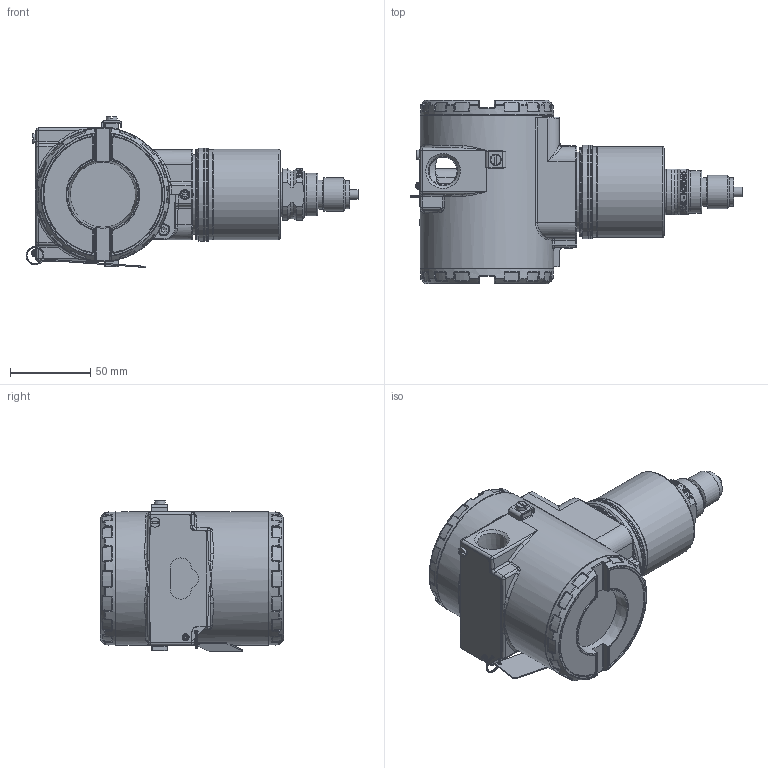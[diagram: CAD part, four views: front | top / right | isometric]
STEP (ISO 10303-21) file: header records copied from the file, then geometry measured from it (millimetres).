
FILE_DESCRIPTION(/* description */ (''),/* implementation_level */ '2;1');
FILE_NAME(/* name */ 'F:\Area\Desenvolvimento_2\Projects\Sensor\projetos\LD29X\3d\dimensionais 3D - clientes\LD29XM5 G1-2 B.stp',/* time_stamp */ '2023-01-31T10:11:25-03:00',/* author */ ('inventor02'),/* organization */ (''),/* preprocessor_version */ 'ST-DEVELOPER v17',/* originating_system */ 'Autodesk Inventor 2019',/* authorisation */ '');
FILE_SCHEMA (('CONFIG_CONTROL_DESIGN'));
Products named in the file (27): LD29XM5 G1-2 B; SENSOR 29X FX5 G1-2 B; 101-B-5897-01 capa fx5; 101-C-3677-06 conexao ao processo 1-2NPT; 101-D-1309-04 pescoço LD29x usinado; 101-B-1610-06 conexão G1-2 B EN837-1; carcaça vazia com tampas e plaqueta; carcaça LD inox sem letras; Subconjunto plaqueta 300; Plaqueta transmissor; Parafuso da Plaqueta; Rebite da Plaqueta; 096-A-0169-03; 101-A-0502-01; Chapa aterramento externo; ISO 1207 - M4 x 8; DIN 915 - M6 x 10; ANSI B18.3.1M - M4x0,7 x 8; Subconjunto tampa com visor aluminio; tampa pintada; VIDRO DO VISOR; oring 41x1 vidro tampa; Trava do vidro da tampa com visor; trava do vidro VH256; Subconjunto tampa sem visor-aluminio; tampa cega 300 pintada p0; 00034775-0
Assembly tree (28 placements, depth 4):
  LD29XM5 G1-2 B
    SENSOR 29X FX5 G1-2 B
      101-B-5897-01 capa fx5
      101-C-3677-06 conexao ao processo 1-2NPT
      101-D-1309-04 pescoço LD29x usinado
      101-B-1610-06 conexão G1-2 B EN837-1
    carcaça vazia com tampas e plaqueta
      carcaça LD inox sem letras
      Subconjunto plaqueta 300
        Plaqueta transmissor
        Parafuso da Plaqueta
        Rebite da Plaqueta
        096-A-0169-03
        101-A-0502-01
      Chapa aterramento externo
      ISO 1207 - M4 x 8
      DIN 915 - M6 x 10
      ANSI B18.3.1M - M4x0,7 x 8  x2
      Subconjunto tampa com visor aluminio
        tampa pintada
        VIDRO DO VISOR
        oring 41x1 vidro tampa
        Trava do vidro da tampa com visor
        trava do vidro VH256
        00034775-0
      Subconjunto tampa sem visor-aluminio
        tampa cega 300 pintada p0
        00034775-0
Bounding box: 206.59 x 114 x 93.95 mm (x, y, z)
Volume: 421021 mm3; surface area: 184963.8 mm2
Topology: 23 solids, 23 shells, 1930 faces, 4708 edges, 2820 vertices
Faces by surface type: bspline 575, cylinder 434, plane 388, torus 268, cone 160, sphere 105
Full cylindrical faces by diameter (mm): 2 x2, 2.1 x2, 2.459 x5, 2.642 x1, 2.7 x1, 3 x1, 3.242 x4, 3.5 x8, 3.571 x1, 4 x5, 4.3 x1, 4.4 x1, 4.917 x1, 6 x3, 7 x4, 7.087 x2, 7.6 x2, 8 x1, 8.7 x2, 17.475 x2, 17.5 x2, 18 x2, 20.8 x1, 26.5 x2, 28.399 x1, 32.2 x1, 34.15 x1, 35.15 x1, 35.2 x1, 36 x1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
Entity records: 71783 total; most frequent: CARTESIAN_POINT 28139, ORIENTED_EDGE 9188, DIRECTION 8537, EDGE_CURVE 4594, AXIS2_PLACEMENT_3D 3696, VERTEX_POINT 2791, CIRCLE 2175, EDGE_LOOP 2023
